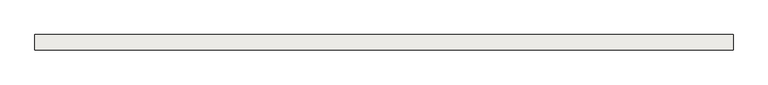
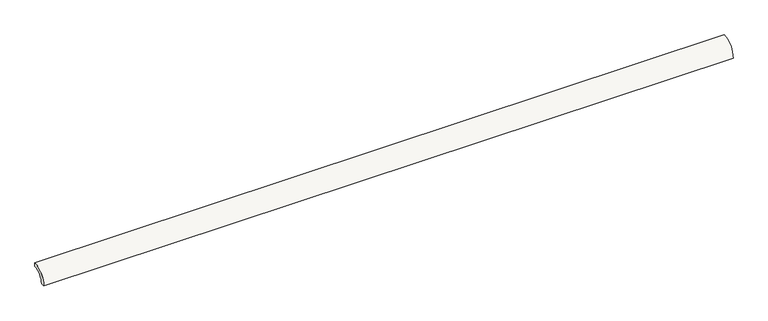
"""IFC4 building model written with IfcOpenShell, lengths in millimetres: slab geometry, ROSA GRES_138 : Pieza 138_Aqua_Marino_Anti-Slip."""

from ifc_helpers import new_model, si_unit, point, frame, frame_2d, origin, origin_2d, place, context, project, spatial, polyline, circle_curve, trimmed, segment, composite_curve, outline, extrude, source, transform, mapped, element, save


def slab_a7b09487(model_context):
    return source(origin(), model_context, "Body", "SweptSolid", [
        extrude(outline(composite_curve([segment(polyline([(0.0, 40.0), (0.0, 30.0265886)]), True, "CONTINUOUS"), segment(trimmed(circle_curve(frame_2d((-0.0044453, 0.0044453)), 30.0221435), [point((0.0, 30.0265886))], [point((-30.0265886, 0.0))], True, "CARTESIAN"), True, "CONTINUOUS"), segment(polyline([(-30.0265886, 0.0), (-40.0, 0.0)]), True, "CONTINUOUS"), segment(trimmed(circle_curve(origin_2d(), 40.0), [point((-40.0, 0.0))], [point((0.0, 40.0))], False, "CARTESIAN"), True, "CONTINUOUS")], self_intersect=False)), frame((0.0, 0.0, 0.0), z_axis=(1.0, 0.0, 0.0), x_axis=(0.0, 1.0, 0.0)), (0.0, 0.0, 1.0), 1800.0),
    ])


if __name__ == "__main__":
    model = new_model("IFC4")
    model_context = context("Model", 3, world=origin())
    ifc_project = project(units=[si_unit("LENGTHUNIT", "METRE", prefix="MILLI")], contexts=[model_context])
    site = spatial("IfcSite", under=ifc_project)
    building = spatial("IfcBuilding", under=site)
    placement = place(None, origin())
    slab_shape = slab_a7b09487(model_context)
    element("IfcSlab", 1, ObjectType="ROSA GRES_138 : Pieza 138_Aqua_Marino_Anti-Slip", at=placement, inside=building, context=model_context, shape_type="MappedRepresentation", body=[
        mapped(slab_shape, transform((0.0, 0.0, 0.0), x_axis=(1.0, 0.0, 0.0), y_axis=(0.0, 1.0, 0.0), z_axis=(0.0, 0.0, 1.0))),
    ])
    save(model, "model.ifc")
